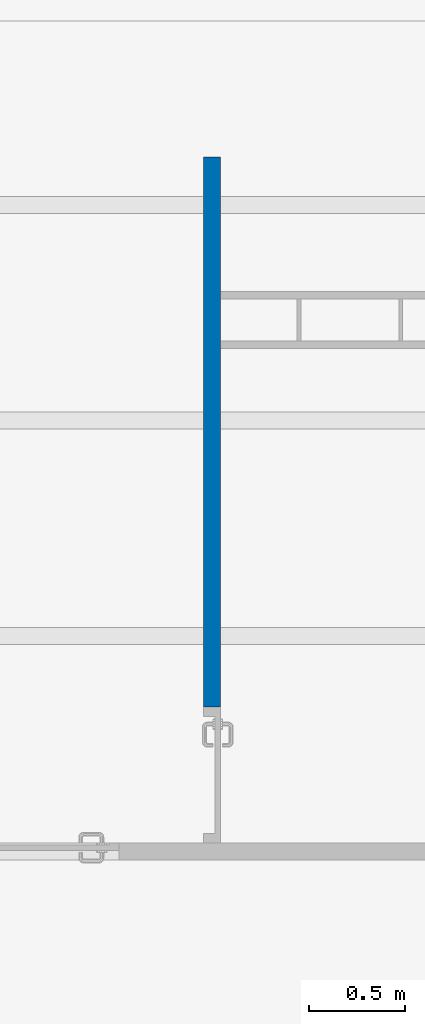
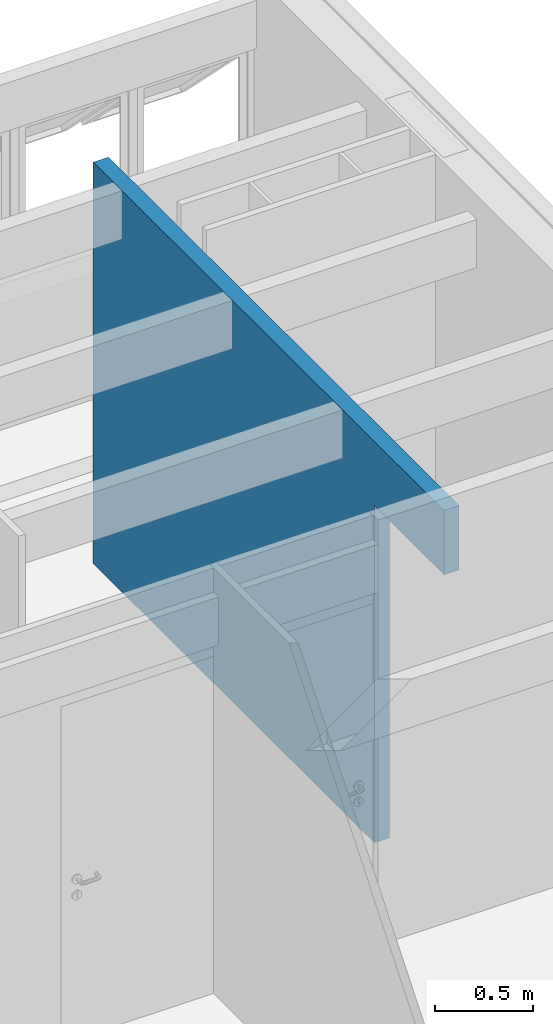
# One storey, part 11 of 37: 1 wall, 1 opening.
"""IFC2X3 building model written with IfcOpenShell, lengths in millimetres."""

from ifc_helpers import new_model, entity, si_unit, converted_unit, derived_unit, money_unit, direction, frame, origin_with_axes, origin_2d_with_axis, place, context, subcontext, project, spatial, polyline, rectangle, outline, extrude, material, layer, layer_set, layer_usage, type_object, element, save


model = new_model("IFC2X3")

# Units and contexts
model_context = context("Model", 3, precision=0.01, world=origin_with_axes(), true_north=direction((0.0, 1.0)))
body_context = subcontext(model_context, "Body", "Model", "MODEL_VIEW")
ifc_project = project(units=[si_unit("LENGTHUNIT", "METRE", prefix="MILLI"), si_unit("AREAUNIT", "SQUARE_METRE"), si_unit("VOLUMEUNIT", "CUBIC_METRE"), converted_unit("PLANEANGLEUNIT", "DEGREE", entity("IfcPlaneAngleMeasure", 0.0174532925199), si_unit("PLANEANGLEUNIT", "RADIAN"), dimensions=[0, 0, 0, 0, 0, 0, 0]), money_unit("USD"), converted_unit("TIMEUNIT", "Year", entity("IfcTimeMeasure", 31556926.0), si_unit("TIMEUNIT", "SECOND"), dimensions=[0, 0, 1, 0, 0, 0, 0]), si_unit("MASSUNIT", "GRAM", prefix="KILO"), si_unit("THERMODYNAMICTEMPERATUREUNIT", "DEGREE_CELSIUS"), si_unit("LUMINOUSINTENSITYUNIT", "LUMEN"), si_unit("ENERGYUNIT", "JOULE", prefix="MEGA"), derived_unit("THERMALCONDUCTANCEUNIT", [(si_unit("POWERUNIT", "WATT"), 1), (si_unit("LENGTHUNIT", "METRE"), -1), (si_unit("THERMODYNAMICTEMPERATUREUNIT", "KELVIN"), -1)]), derived_unit("SPECIFICHEATCAPACITYUNIT", [(si_unit("ENERGYUNIT", "JOULE"), 1), (si_unit("MASSUNIT", "GRAM", prefix="KILO"), -1), (si_unit("THERMODYNAMICTEMPERATUREUNIT", "KELVIN"), -1)]), derived_unit("MASSDENSITYUNIT", [(si_unit("MASSUNIT", "GRAM", prefix="KILO"), 1), (si_unit("VOLUMEUNIT", "CUBIC_METRE"), -1)])], contexts=[model_context])

# Site, building, storey
site_placement = place(None, origin_with_axes())
site = spatial("IfcSite", under=ifc_project, at=site_placement, Name="Local", CompositionType="ELEMENT")
building_placement = place(site_placement, origin_with_axes())
building = spatial("IfcBuilding", under=site, at=building_placement, Name="Construção", CompositionType="ELEMENT")
storey_placement = place(building_placement, frame((0.0, 0.0, 5300.0), z_axis=(0.0, 0.0, 1.0), x_axis=(1.0, 0.0, 0.0)))
storey = spatial("IfcBuildingStorey", under=building, at=storey_placement, Name="Terceiro Pavimento", CompositionType="ELEMENT", Elevation=5300.0)

# Wall, opening
ifc_material = material(Name="GENÉRICO - VEDAÇÃO EXTERNA")
ifc_layer = layer(ifc_material, 90.0, ventilated="UNKNOWN")
ifc_layer_set = layer_set([ifc_layer], Name="GENÉRICO - VEDAÇÃO EXTERNA 90")
ifc_layer_usage = layer_usage(ifc_layer_set, "AXIS2", "POSITIVE", 0.0)
wall_type = type_object("IfcWallType", Name="GENÉRICO - VEDAÇÃO EXTERNA 90", PredefinedType="NOTDEFINED")
wall_placement = place(storey_placement, frame((13040.0, 7345.2195667, 0.0), z_axis=(0.0, 0.0, 1.0), x_axis=(0.0, -1.0, 0.0)))
wall = element("IfcWallStandardCase", 1, at=wall_placement, inside=storey, type_object=wall_type, material=ifc_layer_usage, Name="APTO10-PAREDE-012", context=body_context, shape_type="SweptSolid", body=[
    extrude(outline(polyline([(0.0, 0.0), (3580.0, 0.0), (3580.0, 90.0), (0.0, 90.0), (0.0, 0.0)])), origin_with_axes(), (0.0, 0.0, 1.0), 2500.0),
])
opening_placement = place(wall_placement, frame((3225.0, 0.0, 0.0), z_axis=(0.0, 0.0, 1.0), x_axis=(1.0, 0.0, 0.0)))
element("IfcOpeningElement", 2, at=opening_placement, cuts=wall, Name="APTO10-PORTA-003", context=body_context, shape_type="SweptSolid", body=[
    extrude(rectangle(XDim=710.0, YDim=2100.0, at=origin_2d_with_axis()), frame((0.0, 90.0, 1050.0), z_axis=(0.0, -1.0, 0.0), x_axis=(1.0, 0.0, 0.0)), (0.0, 0.0, 1.0), 270.0),
])

save(model, "model.ifc")
